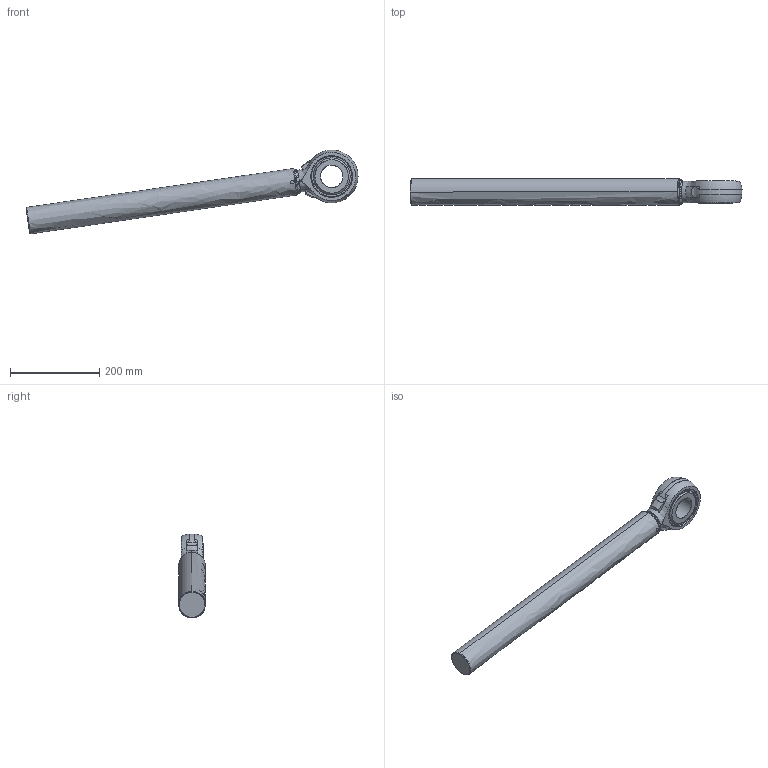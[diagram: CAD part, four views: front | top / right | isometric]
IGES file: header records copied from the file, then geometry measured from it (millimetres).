
Start section: SolidWorks IGES file using analytic representation for surfaces
Global section: file name: C:\Data\SAP_DOC\IRB6740_lightweight\6740_ASM\IRB6740_310kg-280_OC_02_SW_J\IRB6740_310kg-280_OC_02_IGES_J\IRB6740_310kg-280_OC_00_ROD_CAD.igs; native system: SolidWorks 2024; preprocessor: SolidWorks 2024; author: SEJAOLS6; date: 260506.155201; units: millimetre
Bounding box: 744.01 x 60 x 187.82 mm (x, y, z)
Surface area: 162871.9 mm2 (no closed solid volume)
Topology: 0 solids, 0 shells, 62 faces, 1713 edges, 1713 vertices
Faces by surface type: revolution 34, bspline 28
